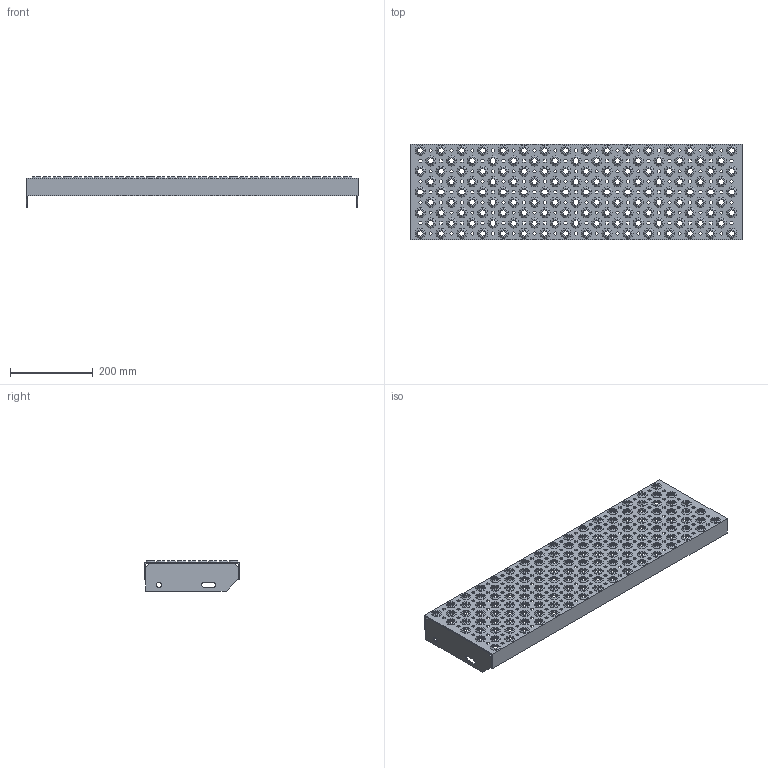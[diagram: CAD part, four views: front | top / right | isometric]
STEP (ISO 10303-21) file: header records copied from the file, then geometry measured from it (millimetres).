
FILE_DESCRIPTION(('Open CASCADE Model'),'2;1');
FILE_NAME('Open CASCADE Shape Model','2020-06-30T11:05:09',('Author'),( 'Open CASCADE'),'Open CASCADE STEP processor 7.2','Open CASCADE 7.2' ,'Unknown');
FILE_SCHEMA(('AUTOMOTIVE_DESIGN { 1 0 10303 214 1 1 1 1 }'));
Length unit declared in the file: millimetre
Products named in the file (5893): Open CASCADE STEP translator 7.2 1; Open CASCADE STEP translator 7.2 2; Open CASCADE STEP translator 7.2 3; Open CASCADE STEP translator 7.2 3.1; Open CASCADE STEP translator 7.2 3.2; Open CASCADE STEP translator 7.2 3.3; Open CASCADE STEP translator 7.2 3.4; Open CASCADE STEP translator 7.2 3.5; Open CASCADE STEP translator 7.2 3.6; Open CASCADE STEP translator 7.2 3.7; Open CASCADE STEP translator 7.2 3.8; Open CASCADE STEP translator 7.2 3.9; Open CASCADE STEP translator 7.2 3.10; Open CASCADE STEP translator 7.2 3.11; Open CASCADE STEP translator 7.2 3.12; Open CASCADE STEP translator 7.2 3.13; Open CASCADE STEP translator 7.2 3.14; Open CASCADE STEP translator 7.2 3.15; Open CASCADE STEP translator 7.2 3.16; Open CASCADE STEP translator 7.2 3.17; Open CASCADE STEP translator 7.2 3.18; Open CASCADE STEP translator 7.2 3.19; Open CASCADE STEP translator 7.2 3.20; Open CASCADE STEP translator 7.2 3.21; Open CASCADE STEP translator 7.2 3.22; Open CASCADE STEP translator 7.2 3.23; Open CASCADE STEP translator 7.2 3.24; Open CASCADE STEP translator 7.2 3.25; Open CASCADE STEP translator 7.2 3.26; Open CASCADE STEP translator 7.2 3.27; Open CASCADE STEP translator 7.2 3.28; Open CASCADE STEP translator 7.2 3.29; Open CASCADE STEP translator 7.2 3.30; Open CASCADE STEP translator 7.2 3.31; Open CASCADE STEP translator 7.2 3.32; Open CASCADE STEP translator 7.2 3.33; Open CASCADE STEP translator 7.2 3.34; Open CASCADE STEP translator 7.2 3.35; Open CASCADE STEP translator 7.2 3.36; Open CASCADE STEP translator 7.2 3.37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
Assembly tree (5890 placements, depth 2):
  Open CASCADE STEP translator 7.2 1
  Open CASCADE STEP translator 7.2 2
  Open CASCADE STEP translator 7.2 3
    Open CASCADE STEP translator 7.2 3.1
    Open CASCADE STEP translator 7.2 3.2
    Open CASCADE STEP translator 7.2 3.3
    Open CASCADE STEP translator 7.2 3.4
    Open CASCADE STEP translator 7.2 3.5
    Open CASCADE STEP translator 7.2 3.6
    Open CASCADE STEP translator 7.2 3.7
    Open CASCADE STEP translator 7.2 3.8
    Open CASCADE STEP translator 7.2 3.9
    Open CASCADE STEP translator 7.2 3.10
    Open CASCADE STEP translator 7.2 3.11
    Open CASCADE STEP translator 7.2 3.12
    Open CASCADE STEP translator 7.2 3.13
    Open CASCADE STEP translator 7.2 3.14
    Open CASCADE STEP translator 7.2 3.15
    Open CASCADE STEP translator 7.2 3.16
    Open CASCADE STEP translator 7.2 3.17
    Open CASCADE STEP translator 7.2 3.18
    Open CASCADE STEP translator 7.2 3.19
    Open CASCADE STEP translator 7.2 3.20
    Open CASCADE STEP translator 7.2 3.21
    Open CASCADE STEP translator 7.2 3.22
    Open CASCADE STEP translator 7.2 3.23
    Open CASCADE STEP translator 7.2 3.24
    Open CASCADE STEP translator 7.2 3.25
    Open CASCADE STEP translator 7.2 3.26
    Open CASCADE STEP translator 7.2 3.27
    Open CASCADE STEP translator 7.2 3.28
    Open CASCADE STEP translator 7.2 3.29
    Open CASCADE STEP translator 7.2 3.30
    Open CASCADE STEP translator 7.2 3.31
    Open CASCADE STEP translator 7.2 3.32
    Open CASCADE STEP translator 7.2 3.33
    Open CASCADE STEP translator 7.2 3.34
    Open CASCADE STEP translator 7.2 3.35
    Open CASCADE STEP translator 7.2 3.36
    Open CASCADE STEP translator 7.2 3.37
    Open CASCADE STEP translator 7.2 3.38
    Open CASCADE STEP translator 7.2 3.39
    Open CASCADE STEP translator 7.2 3.40
    Open CASCADE STEP translator 7.2 3.41
    Open CASCADE STEP translator 7.2 3.42
    Open CASCADE STEP translator 7.2 3.43
    Open CASCADE STEP translator 7.2 3.44
    Open CASCADE STEP translator 7.2 3.45
    Open CASCADE STEP translator 7.2 3.46
    Open CASCADE STEP translator 7.2 3.47
    Open CASCADE STEP translator 7.2 3.48
    Open CASCADE STEP translator 7.2 3.49
    Open CASCADE STEP translator 7.2 3.50
    Open CASCADE STEP translator 7.2 3.51
    Open CASCADE STEP translator 7.2 3.52
    Open CASCADE STEP translator 7.2 3.53
    Open CASCADE STEP translator 7.2 3.54
    Open CASCADE STEP translator 7.2 3.55
    Open CASCADE STEP translator 7.2 3.56
    Open CASCADE STEP translator 7.2 3.57
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Bounding box: 800 x 230 x 73 mm (x, y, z)
Volume: 83595.2 mm3; surface area: 643895.7 mm2
Topology: 2 solids, 5892 shells, 5918 faces, 33720 edges, 33696 vertices
Faces by surface type: plane 5912, cylinder 6
Full cylindrical faces by diameter (mm): 13 x2
Entity records: 673132 total; most frequent: CARTESIAN_POINT 113065, DIRECTION 91114, LINE 67464, VECTOR 67464, ORIENTED_EDGE 33792, PCURVE 33792, DEFINITIONAL_REPRESENTATION 33792, EDGE_CURVE 33720
